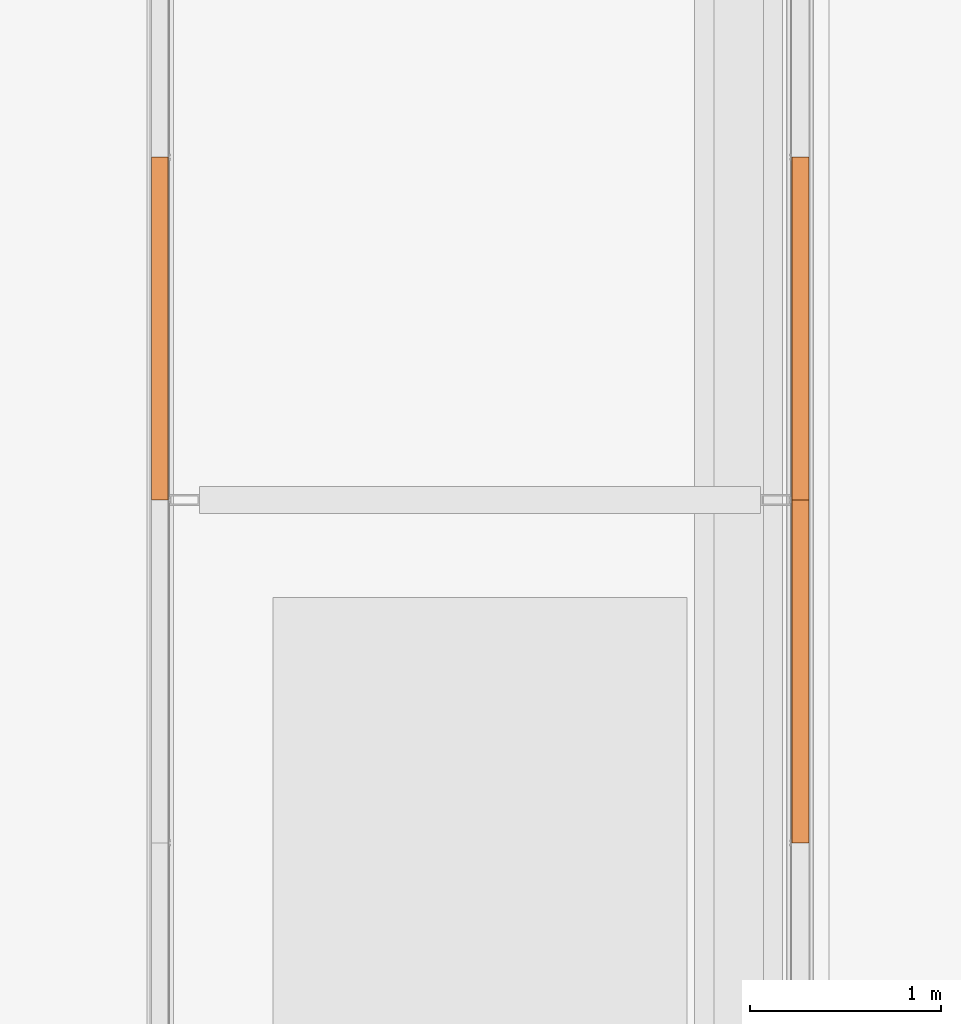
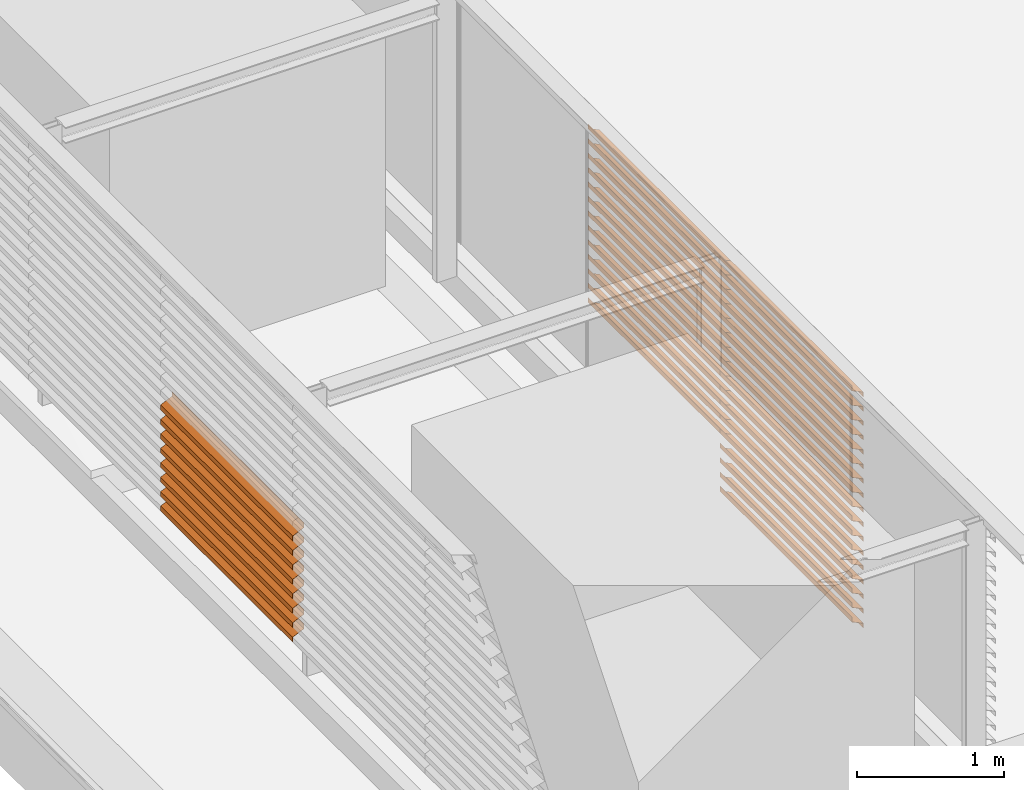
# One storey, part 24 of 32: 38 proxies.
"""IFC2X3 building model written with IfcOpenShell, lengths in millimetres."""

from ifc_helpers import new_model, entity, si_unit, converted_unit, derived_unit, direction, frame, origin, place, context, subcontext, project, spatial, polyline, outline, extrude, type_object, element, save


model = new_model("IFC2X3")

# Units and contexts
model_context = context("Model", 3, precision=0.01, world=origin(), true_north=direction((6.123031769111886e-17, 1.0)))
body_context = subcontext(model_context, "Body", "Model", "MODEL_VIEW")
ifc_project = project(units=[si_unit("LENGTHUNIT", "METRE", prefix="MILLI"), si_unit("AREAUNIT", "SQUARE_METRE"), si_unit("VOLUMEUNIT", "CUBIC_METRE"), converted_unit("PLANEANGLEUNIT", "DEGREE", entity("IfcRatioMeasure", 0.017453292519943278), si_unit("PLANEANGLEUNIT", "RADIAN"), dimensions=[0, 0, 0, 0, 0, 0, 0]), si_unit("MASSUNIT", "GRAM", prefix="KILO"), derived_unit("MASSDENSITYUNIT", [(si_unit("MASSUNIT", "GRAM", prefix="KILO"), 1), (si_unit("LENGTHUNIT", "METRE"), -3)]), derived_unit("IONCONCENTRATIONUNIT", [(si_unit("MASSUNIT", "GRAM", prefix="KILO"), 1), (si_unit("LENGTHUNIT", "METRE"), -3)]), derived_unit("MOMENTOFINERTIAUNIT", [(si_unit("LENGTHUNIT", "METRE"), 4)]), si_unit("TIMEUNIT", "SECOND"), si_unit("FREQUENCYUNIT", "HERTZ"), si_unit("THERMODYNAMICTEMPERATUREUNIT", "DEGREE_CELSIUS"), derived_unit("THERMALTRANSMITTANCEUNIT", [(si_unit("MASSUNIT", "GRAM", prefix="KILO"), 1), (si_unit("THERMODYNAMICTEMPERATUREUNIT", "KELVIN"), -1), (si_unit("TIMEUNIT", "SECOND"), -3)]), derived_unit("THERMALCONDUCTANCEUNIT", [(si_unit("MASSUNIT", "GRAM", prefix="KILO"), 1), (si_unit("THERMODYNAMICTEMPERATUREUNIT", "KELVIN"), -1), (si_unit("TIMEUNIT", "SECOND"), -3), (si_unit("LENGTHUNIT", "METRE"), 1)]), derived_unit("VOLUMETRICFLOWRATEUNIT", [(si_unit("LENGTHUNIT", "METRE"), 3), (si_unit("TIMEUNIT", "SECOND"), -1)]), derived_unit("MASSFLOWRATEUNIT", [(si_unit("MASSUNIT", "GRAM", prefix="KILO"), 1), (si_unit("TIMEUNIT", "SECOND"), -1)]), derived_unit("ROTATIONALFREQUENCYUNIT", [(si_unit("TIMEUNIT", "SECOND"), -1)]), si_unit("ELECTRICCURRENTUNIT", "AMPERE"), si_unit("ELECTRICVOLTAGEUNIT", "VOLT"), si_unit("POWERUNIT", "WATT"), si_unit("FORCEUNIT", "NEWTON", prefix="KILO"), si_unit("ILLUMINANCEUNIT", "LUX"), si_unit("LUMINOUSFLUXUNIT", "LUMEN"), si_unit("LUMINOUSINTENSITYUNIT", "CANDELA"), derived_unit("USERDEFINED", [(si_unit("MASSUNIT", "GRAM", prefix="KILO"), -1), (si_unit("LENGTHUNIT", "METRE"), -2), (si_unit("TIMEUNIT", "SECOND"), 3), (si_unit("LUMINOUSFLUXUNIT", "LUMEN"), 1)]), derived_unit("USERDEFINED", [(si_unit("MASSUNIT", "GRAM", prefix="KILO"), 1), (si_unit("TIMEUNIT", "SECOND"), -3), (si_unit("LENGTHUNIT", "METRE"), 3), (si_unit("ELECTRICCURRENTUNIT", "AMPERE"), -2)]), derived_unit("SOUNDPOWERUNIT", [(si_unit("MASSUNIT", "GRAM", prefix="KILO"), 1), (si_unit("TIMEUNIT", "SECOND"), -3), (si_unit("LENGTHUNIT", "METRE"), 2)]), derived_unit("SOUNDPRESSUREUNIT", [(si_unit("MASSUNIT", "GRAM", prefix="KILO"), 1), (si_unit("LENGTHUNIT", "METRE"), -1), (si_unit("TIMEUNIT", "SECOND"), -2)]), derived_unit("LINEARVELOCITYUNIT", [(si_unit("LENGTHUNIT", "METRE"), 1), (si_unit("TIMEUNIT", "SECOND"), -1)]), si_unit("PRESSUREUNIT", "PASCAL"), derived_unit("USERDEFINED", [(si_unit("MASSUNIT", "GRAM", prefix="KILO"), 1), (si_unit("LENGTHUNIT", "METRE"), -2), (si_unit("TIMEUNIT", "SECOND"), -2)]), derived_unit("LINEARFORCEUNIT", [(si_unit("MASSUNIT", "GRAM", prefix="KILO"), 1), (si_unit("TIMEUNIT", "SECOND"), -2)]), derived_unit("PLANARFORCEUNIT", [(si_unit("MASSUNIT", "GRAM", prefix="KILO"), 1), (si_unit("LENGTHUNIT", "METRE"), -1), (si_unit("TIMEUNIT", "SECOND"), -2)]), derived_unit("SPECIFICHEATCAPACITYUNIT", [(si_unit("THERMODYNAMICTEMPERATUREUNIT", "KELVIN"), -1), (si_unit("LENGTHUNIT", "METRE"), 2), (si_unit("TIMEUNIT", "SECOND"), -2)]), derived_unit("HEATINGVALUEUNIT", [(si_unit("LENGTHUNIT", "METRE"), 2), (si_unit("TIMEUNIT", "SECOND"), -2)]), derived_unit("VAPORPERMEABILITYUNIT", [(si_unit("LENGTHUNIT", "METRE"), -1), (si_unit("TIMEUNIT", "SECOND"), 1)]), derived_unit("DYNAMICVISCOSITYUNIT", [(si_unit("MASSUNIT", "GRAM", prefix="KILO"), 1), (si_unit("TIMEUNIT", "SECOND"), -1), (si_unit("LENGTHUNIT", "METRE"), -1)]), derived_unit("THERMALEXPANSIONCOEFFICIENTUNIT", [(si_unit("THERMODYNAMICTEMPERATUREUNIT", "KELVIN"), -1)]), derived_unit("MODULUSOFELASTICITYUNIT", [(si_unit("MASSUNIT", "GRAM", prefix="KILO"), 1), (si_unit("LENGTHUNIT", "METRE"), -1), (si_unit("TIMEUNIT", "SECOND"), -2)]), derived_unit("ISOTHERMALMOISTURECAPACITYUNIT", [(si_unit("LENGTHUNIT", "METRE"), 3), (si_unit("MASSUNIT", "GRAM", prefix="KILO"), -1)]), derived_unit("MOISTUREDIFFUSIVITYUNIT", [(si_unit("TIMEUNIT", "SECOND"), -1), (si_unit("LENGTHUNIT", "METRE"), 2)])], contexts=[model_context])

# Site, building, storey
site_placement = place(None, frame((0.0, 300.0, 0.0)))
site = spatial("IfcSite", under=ifc_project, at=site_placement, Name="<Kadastrale nummers>", CompositionType="ELEMENT")
building_placement = place(site_placement, origin())
building = spatial("IfcBuilding", under=site, at=building_placement, CompositionType="ELEMENT")
storey_placement = place(building_placement, frame((0.0, 0.0, 7150.000035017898)))
storey = spatial("IfcBuildingStorey", under=building, at=storey_placement, Name="02 tweede verdieping", CompositionType="ELEMENT", Elevation=7150.000035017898)

# Proxies
building_element_proxy_type_1 = type_object("IfcBuildingElementProxyType", Name="6286697", PredefinedType="NOTDEFINED")
proxy_1_placement = place(storey_placement, origin())
element("IfcBuildingElementProxy", 1, at=proxy_1_placement, inside=storey, type_object=building_element_proxy_type_1, Name="6286697", context=body_context, shape_type="SweptSolid", body=[
    extrude(outline(polyline([(20.10886047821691, -45.0), (60.108860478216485, -45.0), (58.75984344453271, -43.0), (21.383000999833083, -43.0), (-19.652072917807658, 45.0), (-59.89113952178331, 45.0), (-59.89113952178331, 43.0), (-20.92621343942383, 43.0), (20.10886047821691, -45.0)])), frame((41723.0, 33602.50000015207, 2480.108860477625), z_axis=(0.0, 1.0, 0.0), x_axis=(0.0, 0.0, -1.0)), (0.0, 0.0, 1.0), 1797.4999998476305),
])
building_element_proxy_type_2 = type_object("IfcBuildingElementProxyType", Name="6286698", PredefinedType="NOTDEFINED")
proxy_2_placement = place(storey_placement, origin())
element("IfcBuildingElementProxy", 2, at=proxy_2_placement, inside=storey, type_object=building_element_proxy_type_2, Name="6286698", context=body_context, shape_type="SweptSolid", body=[
    extrude(outline(polyline([(20.108860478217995, -45.0), (60.108860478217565, -45.0), (58.75984344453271, -43.0), (21.383000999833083, -43.0), (-19.652072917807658, 45.0), (-59.89113952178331, 45.0), (-59.89113952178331, 43.0), (-20.92621343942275, 43.0), (20.108860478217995, -45.0)])), frame((41723.0, 33602.50000015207, 2360.1088604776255), z_axis=(0.0, 1.0, 0.0), x_axis=(0.0, 0.0, -1.0)), (0.0, 0.0, 1.0), 1797.4999998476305),
])
building_element_proxy_type_3 = type_object("IfcBuildingElementProxyType", Name="6286699", PredefinedType="NOTDEFINED")
proxy_3_placement = place(storey_placement, origin())
element("IfcBuildingElementProxy", 3, at=proxy_3_placement, inside=storey, type_object=building_element_proxy_type_3, Name="6286699", context=body_context, shape_type="SweptSolid", body=[
    extrude(outline(polyline([(20.108860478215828, -45.0), (60.1088604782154, -45.0), (58.75984344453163, -43.0), (21.383000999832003, -43.0), (-19.65207291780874, 45.0), (-59.891139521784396, 45.0), (-59.891139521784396, 43.0), (-20.926213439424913, 43.0), (20.108860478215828, -45.0)])), frame((41723.0, 33602.50000015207, 2240.1088604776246), z_axis=(0.0, 1.0, 0.0), x_axis=(0.0, 0.0, -1.0)), (0.0, 0.0, 1.0), 1797.4999998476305),
])
building_element_proxy_type_4 = type_object("IfcBuildingElementProxyType", Name="6286700", PredefinedType="NOTDEFINED")
proxy_4_placement = place(storey_placement, origin())
element("IfcBuildingElementProxy", 4, at=proxy_4_placement, inside=storey, type_object=building_element_proxy_type_4, Name="6286700", context=body_context, shape_type="SweptSolid", body=[
    extrude(outline(polyline([(20.10886047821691, -45.0), (60.108860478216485, -45.0), (58.75984344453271, -43.0), (21.383000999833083, -43.0), (-19.652072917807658, 45.0), (-59.89113952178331, 45.0), (-59.89113952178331, 43.0), (-20.92621343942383, 43.0), (20.10886047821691, -45.0)])), frame((41723.0, 33602.50000015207, 2120.1088604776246), z_axis=(0.0, 1.0, 0.0), x_axis=(0.0, 0.0, -1.0)), (0.0, 0.0, 1.0), 1797.4999998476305),
])
building_element_proxy_type_5 = type_object("IfcBuildingElementProxyType", Name="6286701", PredefinedType="NOTDEFINED")
proxy_5_placement = place(storey_placement, origin())
element("IfcBuildingElementProxy", 5, at=proxy_5_placement, inside=storey, type_object=building_element_proxy_type_5, Name="6286701", context=body_context, shape_type="SweptSolid", body=[
    extrude(outline(polyline([(20.108860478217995, -45.0), (60.108860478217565, -45.0), (58.7598434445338, -43.0), (21.383000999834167, -43.0), (-19.652072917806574, 45.0), (-59.89113952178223, 45.0), (-59.89113952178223, 43.0), (-20.92621343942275, 43.0), (20.108860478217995, -45.0)])), frame((41723.0, 33602.50000015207, 2000.108860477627), z_axis=(0.0, 1.0, 0.0), x_axis=(0.0, 0.0, -1.0)), (0.0, 0.0, 1.0), 1797.4999998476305),
])
building_element_proxy_type_6 = type_object("IfcBuildingElementProxyType", Name="6286702", PredefinedType="NOTDEFINED")
proxy_6_placement = place(storey_placement, origin())
element("IfcBuildingElementProxy", 6, at=proxy_6_placement, inside=storey, type_object=building_element_proxy_type_6, Name="6286702", context=body_context, shape_type="SweptSolid", body=[
    extrude(outline(polyline([(20.10886047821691, -45.0), (60.108860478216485, -45.0), (58.75984344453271, -43.0), (21.383000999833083, -43.0), (-19.652072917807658, 45.0), (-59.89113952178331, 45.0), (-59.89113952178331, 43.0), (-20.92621343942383, 43.0), (20.10886047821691, -45.0)])), frame((41723.0, 33602.50000015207, 1880.108860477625), z_axis=(0.0, 1.0, 0.0), x_axis=(0.0, 0.0, -1.0)), (0.0, 0.0, 1.0), 1797.4999998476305),
])
building_element_proxy_type_7 = type_object("IfcBuildingElementProxyType", Name="6286703", PredefinedType="NOTDEFINED")
proxy_7_placement = place(storey_placement, origin())
element("IfcBuildingElementProxy", 7, at=proxy_7_placement, inside=storey, type_object=building_element_proxy_type_7, Name="6286703", context=body_context, shape_type="SweptSolid", body=[
    extrude(outline(polyline([(20.10886047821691, -45.0), (60.108860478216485, -45.0), (58.75984344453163, -43.0), (21.383000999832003, -43.0), (-19.65207291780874, 45.0), (-59.891139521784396, 45.0), (-59.891139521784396, 43.0), (-20.92621343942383, 43.0), (20.10886047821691, -45.0)])), frame((41723.0, 33602.50000015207, 1760.1088604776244), z_axis=(0.0, 1.0, 0.0), x_axis=(0.0, 0.0, -1.0)), (0.0, 0.0, 1.0), 1797.4999998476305),
])
building_element_proxy_type_8 = type_object("IfcBuildingElementProxyType", Name="6286704", PredefinedType="NOTDEFINED")
proxy_8_placement = place(storey_placement, origin())
element("IfcBuildingElementProxy", 8, at=proxy_8_placement, inside=storey, type_object=building_element_proxy_type_8, Name="6286704", context=body_context, shape_type="SweptSolid", body=[
    extrude(outline(polyline([(20.10886047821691, -45.0), (60.108860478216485, -45.0), (58.75984344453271, -43.0), (21.383000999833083, -43.0), (-19.652072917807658, 45.0), (-59.89113952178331, 45.0), (-59.89113952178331, 43.0), (-20.92621343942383, 43.0), (20.10886047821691, -45.0)])), frame((41723.0, 33602.50000015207, 1640.1088604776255), z_axis=(0.0, 1.0, 0.0), x_axis=(0.0, 0.0, -1.0)), (0.0, 0.0, 1.0), 1797.4999998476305),
])
building_element_proxy_type_9 = type_object("IfcBuildingElementProxyType", Name="6286705", PredefinedType="NOTDEFINED")
proxy_9_placement = place(storey_placement, origin())
element("IfcBuildingElementProxy", 9, at=proxy_9_placement, inside=storey, type_object=building_element_proxy_type_9, Name="6286705", context=body_context, shape_type="SweptSolid", body=[
    extrude(outline(polyline([(20.108860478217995, -45.0), (60.108860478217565, -45.0), (58.75984344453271, -43.0), (21.383000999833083, -43.0), (-19.652072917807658, 45.0), (-59.89113952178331, 45.0), (-59.89113952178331, 43.0), (-20.92621343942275, 43.0), (20.108860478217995, -45.0)])), frame((41723.0, 33602.50000015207, 1520.1088604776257), z_axis=(0.0, 1.0, 0.0), x_axis=(0.0, 0.0, -1.0)), (0.0, 0.0, 1.0), 1797.4999998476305),
])
building_element_proxy_type_10 = type_object("IfcBuildingElementProxyType", Name="6286706", PredefinedType="NOTDEFINED")
proxy_10_placement = place(storey_placement, origin())
element("IfcBuildingElementProxy", 10, at=proxy_10_placement, inside=storey, type_object=building_element_proxy_type_10, Name="6286706", context=body_context, shape_type="SweptSolid", body=[
    extrude(outline(polyline([(20.108860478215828, -45.0), (60.1088604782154, -45.0), (58.75984344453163, -43.0), (21.383000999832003, -43.0), (-19.65207291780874, 45.0), (-59.891139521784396, 45.0), (-59.891139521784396, 43.0), (-20.926213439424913, 43.0), (20.108860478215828, -45.0)])), frame((41723.0, 33602.50000015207, 1400.1088604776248), z_axis=(0.0, 1.0, 0.0), x_axis=(0.0, 0.0, -1.0)), (0.0, 0.0, 1.0), 1797.4999998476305),
])
building_element_proxy_type_11 = type_object("IfcBuildingElementProxyType", Name="6286707", PredefinedType="NOTDEFINED")
proxy_11_placement = place(storey_placement, origin())
element("IfcBuildingElementProxy", 11, at=proxy_11_placement, inside=storey, type_object=building_element_proxy_type_11, Name="6286707", context=body_context, shape_type="SweptSolid", body=[
    extrude(outline(polyline([(20.10886047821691, -45.0), (60.108860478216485, -45.0), (58.75984344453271, -43.0), (21.383000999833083, -43.0), (-19.652072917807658, 45.0), (-59.89113952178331, 45.0), (-59.89113952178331, 43.0), (-20.92621343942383, 43.0), (20.10886047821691, -45.0)])), frame((41723.0, 33602.50000015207, 1280.108860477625), z_axis=(0.0, 1.0, 0.0), x_axis=(0.0, 0.0, -1.0)), (0.0, 0.0, 1.0), 1797.4999998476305),
])
building_element_proxy_type_12 = type_object("IfcBuildingElementProxyType", Name="6286708", PredefinedType="NOTDEFINED")
proxy_12_placement = place(storey_placement, origin())
element("IfcBuildingElementProxy", 12, at=proxy_12_placement, inside=storey, type_object=building_element_proxy_type_12, Name="6286708", context=body_context, shape_type="SweptSolid", body=[
    extrude(outline(polyline([(20.108860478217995, -45.0), (60.108860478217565, -45.0), (58.75984344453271, -43.0), (21.383000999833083, -43.0), (-19.652072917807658, 45.0), (-59.89113952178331, 45.0), (-59.89113952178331, 43.0), (-20.92621343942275, 43.0), (20.108860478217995, -45.0)])), frame((41723.0, 33602.50000015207, 1160.1088604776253), z_axis=(0.0, 1.0, 0.0), x_axis=(0.0, 0.0, -1.0)), (0.0, 0.0, 1.0), 1797.4999998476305),
])
building_element_proxy_type_13 = type_object("IfcBuildingElementProxyType", Name="6286709", PredefinedType="NOTDEFINED")
proxy_13_placement = place(storey_placement, origin())
element("IfcBuildingElementProxy", 13, at=proxy_13_placement, inside=storey, type_object=building_element_proxy_type_13, Name="6286709", context=body_context, shape_type="SweptSolid", body=[
    extrude(outline(polyline([(20.10886047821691, -45.0), (60.108860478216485, -45.0), (58.75984344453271, -43.0), (21.383000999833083, -43.0), (-19.652072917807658, 45.0), (-59.89113952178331, 45.0), (-59.89113952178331, 43.0), (-20.92621343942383, 43.0), (20.10886047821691, -45.0)])), frame((41723.0, 33602.50000015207, 1040.1088604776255), z_axis=(0.0, 1.0, 0.0), x_axis=(0.0, 0.0, -1.0)), (0.0, 0.0, 1.0), 1797.4999998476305),
])
building_element_proxy_type_14 = type_object("IfcBuildingElementProxyType", Name="6286710", PredefinedType="NOTDEFINED")
proxy_14_placement = place(storey_placement, origin())
element("IfcBuildingElementProxy", 14, at=proxy_14_placement, inside=storey, type_object=building_element_proxy_type_14, Name="6286710", context=body_context, shape_type="SweptSolid", body=[
    extrude(outline(polyline([(20.10886047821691, -45.0), (60.108860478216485, -45.0), (58.75984344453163, -43.0), (21.383000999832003, -43.0), (-19.65207291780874, 45.0), (-59.891139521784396, 45.0), (-59.891139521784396, 43.0), (-20.92621343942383, 43.0), (20.10886047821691, -45.0)])), frame((41723.0, 33602.50000015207, 920.1088604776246), z_axis=(0.0, 1.0, 0.0), x_axis=(0.0, 0.0, -1.0)), (0.0, 0.0, 1.0), 1797.4999998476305),
])
building_element_proxy_type_15 = type_object("IfcBuildingElementProxyType", Name="6286711", PredefinedType="NOTDEFINED")
proxy_15_placement = place(storey_placement, origin())
element("IfcBuildingElementProxy", 15, at=proxy_15_placement, inside=storey, type_object=building_element_proxy_type_15, Name="6286711", context=body_context, shape_type="SweptSolid", body=[
    extrude(outline(polyline([(20.10886047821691, -45.0), (60.108860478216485, -45.0), (58.75984344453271, -43.0), (21.383000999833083, -43.0), (-19.652072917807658, 45.0), (-59.89113952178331, 45.0), (-59.89113952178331, 43.0), (-20.92621343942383, 43.0), (20.10886047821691, -45.0)])), frame((41723.0, 33602.50000015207, 800.108860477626), z_axis=(0.0, 1.0, 0.0), x_axis=(0.0, 0.0, -1.0)), (0.0, 0.0, 1.0), 1797.4999998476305),
])
building_element_proxy_type_16 = type_object("IfcBuildingElementProxyType", Name="6286712", PredefinedType="NOTDEFINED")
proxy_16_placement = place(storey_placement, origin())
element("IfcBuildingElementProxy", 16, at=proxy_16_placement, inside=storey, type_object=building_element_proxy_type_16, Name="6286712", context=body_context, shape_type="SweptSolid", body=[
    extrude(outline(polyline([(20.108860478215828, -45.0), (60.1088604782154, -45.0), (58.75984344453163, -43.0), (21.383000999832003, -43.0), (-19.65207291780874, 45.0), (-59.891139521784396, 45.0), (-59.891139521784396, 43.0), (-20.926213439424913, 43.0), (20.108860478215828, -45.0)])), frame((41723.0, 33602.50000015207, 680.1088604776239), z_axis=(0.0, 1.0, 0.0), x_axis=(0.0, 0.0, -1.0)), (0.0, 0.0, 1.0), 1797.4999998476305),
])
building_element_proxy_type_17 = type_object("IfcBuildingElementProxyType", Name="6286713", PredefinedType="NOTDEFINED")
proxy_17_placement = place(storey_placement, origin())
element("IfcBuildingElementProxy", 17, at=proxy_17_placement, inside=storey, type_object=building_element_proxy_type_17, Name="6286713", context=body_context, shape_type="SweptSolid", body=[
    extrude(outline(polyline([(20.10886047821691, -45.0), (60.108860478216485, -45.0), (58.75984344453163, -43.0), (21.383000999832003, -43.0), (-19.65207291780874, 45.0), (-59.891139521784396, 45.0), (-59.891139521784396, 43.0), (-20.92621343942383, 43.0), (20.10886047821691, -45.0)])), frame((41723.0, 33602.50000015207, 560.1088604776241), z_axis=(0.0, 1.0, 0.0), x_axis=(0.0, 0.0, -1.0)), (0.0, 0.0, 1.0), 1797.4999998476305),
])
building_element_proxy_type_18 = type_object("IfcBuildingElementProxyType", Name="6286799", PredefinedType="NOTDEFINED")
proxy_18_placement = place(storey_placement, origin())
element("IfcBuildingElementProxy", 18, at=proxy_18_placement, inside=storey, type_object=building_element_proxy_type_18, Name="6286799", context=body_context, shape_type="SweptSolid", body=[
    extrude(outline(polyline([(20.10886047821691, -45.0), (60.108860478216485, -45.0), (58.75984344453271, -43.0), (21.383000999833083, -43.0), (-19.652072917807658, 45.0), (-59.89113952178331, 45.0), (-59.89113952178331, 43.0), (-20.92621343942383, 43.0), (20.10886047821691, -45.0)])), frame((41723.0, 35400.0, 2480.108860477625), z_axis=(0.0, 1.0, 0.0), x_axis=(0.0, 0.0, -1.0)), (0.0, 0.0, 1.0), 1797.4999998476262),
])
building_element_proxy_type_19 = type_object("IfcBuildingElementProxyType", Name="6286800", PredefinedType="NOTDEFINED")
proxy_19_placement = place(storey_placement, origin())
element("IfcBuildingElementProxy", 19, at=proxy_19_placement, inside=storey, type_object=building_element_proxy_type_19, Name="6286800", context=body_context, shape_type="SweptSolid", body=[
    extrude(outline(polyline([(20.108860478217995, -45.0), (60.108860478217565, -45.0), (58.75984344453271, -43.0), (21.383000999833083, -43.0), (-19.652072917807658, 45.0), (-59.89113952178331, 45.0), (-59.89113952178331, 43.0), (-20.92621343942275, 43.0), (20.108860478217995, -45.0)])), frame((41723.0, 35400.0, 2360.1088604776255), z_axis=(0.0, 1.0, 0.0), x_axis=(0.0, 0.0, -1.0)), (0.0, 0.0, 1.0), 1797.4999998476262),
])
building_element_proxy_type_20 = type_object("IfcBuildingElementProxyType", Name="6286801", PredefinedType="NOTDEFINED")
proxy_20_placement = place(storey_placement, origin())
element("IfcBuildingElementProxy", 20, at=proxy_20_placement, inside=storey, type_object=building_element_proxy_type_20, Name="6286801", context=body_context, shape_type="SweptSolid", body=[
    extrude(outline(polyline([(20.108860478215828, -45.0), (60.1088604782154, -45.0), (58.75984344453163, -43.0), (21.383000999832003, -43.0), (-19.65207291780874, 45.0), (-59.891139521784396, 45.0), (-59.891139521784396, 43.0), (-20.926213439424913, 43.0), (20.108860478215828, -45.0)])), frame((41723.0, 35400.0, 2240.1088604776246), z_axis=(0.0, 1.0, 0.0), x_axis=(0.0, 0.0, -1.0)), (0.0, 0.0, 1.0), 1797.4999998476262),
])
building_element_proxy_type_21 = type_object("IfcBuildingElementProxyType", Name="6286802", PredefinedType="NOTDEFINED")
proxy_21_placement = place(storey_placement, origin())
element("IfcBuildingElementProxy", 21, at=proxy_21_placement, inside=storey, type_object=building_element_proxy_type_21, Name="6286802", context=body_context, shape_type="SweptSolid", body=[
    extrude(outline(polyline([(20.10886047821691, -45.0), (60.108860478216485, -45.0), (58.75984344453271, -43.0), (21.383000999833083, -43.0), (-19.652072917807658, 45.0), (-59.89113952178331, 45.0), (-59.89113952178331, 43.0), (-20.92621343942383, 43.0), (20.10886047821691, -45.0)])), frame((41723.0, 35400.0, 2120.1088604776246), z_axis=(0.0, 1.0, 0.0), x_axis=(0.0, 0.0, -1.0)), (0.0, 0.0, 1.0), 1797.4999998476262),
])
building_element_proxy_type_22 = type_object("IfcBuildingElementProxyType", Name="6286803", PredefinedType="NOTDEFINED")
proxy_22_placement = place(storey_placement, origin())
element("IfcBuildingElementProxy", 22, at=proxy_22_placement, inside=storey, type_object=building_element_proxy_type_22, Name="6286803", context=body_context, shape_type="SweptSolid", body=[
    extrude(outline(polyline([(20.108860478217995, -45.0), (60.108860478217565, -45.0), (58.7598434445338, -43.0), (21.383000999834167, -43.0), (-19.652072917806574, 45.0), (-59.89113952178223, 45.0), (-59.89113952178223, 43.0), (-20.92621343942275, 43.0), (20.108860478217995, -45.0)])), frame((41723.0, 35400.0, 2000.108860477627), z_axis=(0.0, 1.0, 0.0), x_axis=(0.0, 0.0, -1.0)), (0.0, 0.0, 1.0), 1797.4999998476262),
])
building_element_proxy_type_23 = type_object("IfcBuildingElementProxyType", Name="6286804", PredefinedType="NOTDEFINED")
proxy_23_placement = place(storey_placement, origin())
element("IfcBuildingElementProxy", 23, at=proxy_23_placement, inside=storey, type_object=building_element_proxy_type_23, Name="6286804", context=body_context, shape_type="SweptSolid", body=[
    extrude(outline(polyline([(20.10886047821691, -45.0), (60.108860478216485, -45.0), (58.75984344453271, -43.0), (21.383000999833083, -43.0), (-19.652072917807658, 45.0), (-59.89113952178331, 45.0), (-59.89113952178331, 43.0), (-20.92621343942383, 43.0), (20.10886047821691, -45.0)])), frame((41723.0, 35400.0, 1880.108860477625), z_axis=(0.0, 1.0, 0.0), x_axis=(0.0, 0.0, -1.0)), (0.0, 0.0, 1.0), 1797.4999998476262),
])
building_element_proxy_type_24 = type_object("IfcBuildingElementProxyType", Name="6286805", PredefinedType="NOTDEFINED")
proxy_24_placement = place(storey_placement, origin())
element("IfcBuildingElementProxy", 24, at=proxy_24_placement, inside=storey, type_object=building_element_proxy_type_24, Name="6286805", context=body_context, shape_type="SweptSolid", body=[
    extrude(outline(polyline([(20.10886047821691, -45.0), (60.108860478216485, -45.0), (58.75984344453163, -43.0), (21.383000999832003, -43.0), (-19.65207291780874, 45.0), (-59.891139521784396, 45.0), (-59.891139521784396, 43.0), (-20.92621343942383, 43.0), (20.10886047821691, -45.0)])), frame((41723.0, 35400.0, 1760.1088604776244), z_axis=(0.0, 1.0, 0.0), x_axis=(0.0, 0.0, -1.0)), (0.0, 0.0, 1.0), 1797.4999998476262),
])
building_element_proxy_type_25 = type_object("IfcBuildingElementProxyType", Name="6286806", PredefinedType="NOTDEFINED")
proxy_25_placement = place(storey_placement, origin())
element("IfcBuildingElementProxy", 25, at=proxy_25_placement, inside=storey, type_object=building_element_proxy_type_25, Name="6286806", context=body_context, shape_type="SweptSolid", body=[
    extrude(outline(polyline([(20.10886047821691, -45.0), (60.108860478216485, -45.0), (58.75984344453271, -43.0), (21.383000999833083, -43.0), (-19.652072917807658, 45.0), (-59.89113952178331, 45.0), (-59.89113952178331, 43.0), (-20.92621343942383, 43.0), (20.10886047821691, -45.0)])), frame((41723.0, 35400.0, 1640.1088604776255), z_axis=(0.0, 1.0, 0.0), x_axis=(0.0, 0.0, -1.0)), (0.0, 0.0, 1.0), 1797.4999998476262),
])
building_element_proxy_type_26 = type_object("IfcBuildingElementProxyType", Name="6286807", PredefinedType="NOTDEFINED")
proxy_26_placement = place(storey_placement, origin())
element("IfcBuildingElementProxy", 26, at=proxy_26_placement, inside=storey, type_object=building_element_proxy_type_26, Name="6286807", context=body_context, shape_type="SweptSolid", body=[
    extrude(outline(polyline([(20.108860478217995, -45.0), (60.108860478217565, -45.0), (58.75984344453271, -43.0), (21.383000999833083, -43.0), (-19.652072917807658, 45.0), (-59.89113952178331, 45.0), (-59.89113952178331, 43.0), (-20.92621343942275, 43.0), (20.108860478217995, -45.0)])), frame((41723.0, 35400.0, 1520.1088604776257), z_axis=(0.0, 1.0, 0.0), x_axis=(0.0, 0.0, -1.0)), (0.0, 0.0, 1.0), 1797.4999998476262),
])
building_element_proxy_type_27 = type_object("IfcBuildingElementProxyType", Name="6286808", PredefinedType="NOTDEFINED")
proxy_27_placement = place(storey_placement, origin())
element("IfcBuildingElementProxy", 27, at=proxy_27_placement, inside=storey, type_object=building_element_proxy_type_27, Name="6286808", context=body_context, shape_type="SweptSolid", body=[
    extrude(outline(polyline([(20.108860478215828, -45.0), (60.1088604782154, -45.0), (58.75984344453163, -43.0), (21.383000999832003, -43.0), (-19.65207291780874, 45.0), (-59.891139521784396, 45.0), (-59.891139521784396, 43.0), (-20.926213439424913, 43.0), (20.108860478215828, -45.0)])), frame((41723.0, 35400.0, 1400.1088604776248), z_axis=(0.0, 1.0, 0.0), x_axis=(0.0, 0.0, -1.0)), (0.0, 0.0, 1.0), 1797.4999998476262),
])
building_element_proxy_type_28 = type_object("IfcBuildingElementProxyType", Name="6286809", PredefinedType="NOTDEFINED")
proxy_28_placement = place(storey_placement, origin())
element("IfcBuildingElementProxy", 28, at=proxy_28_placement, inside=storey, type_object=building_element_proxy_type_28, Name="6286809", context=body_context, shape_type="SweptSolid", body=[
    extrude(outline(polyline([(20.10886047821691, -45.0), (60.108860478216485, -45.0), (58.75984344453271, -43.0), (21.383000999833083, -43.0), (-19.652072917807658, 45.0), (-59.89113952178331, 45.0), (-59.89113952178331, 43.0), (-20.92621343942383, 43.0), (20.10886047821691, -45.0)])), frame((41723.0, 35400.0, 1280.108860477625), z_axis=(0.0, 1.0, 0.0), x_axis=(0.0, 0.0, -1.0)), (0.0, 0.0, 1.0), 1797.4999998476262),
])
building_element_proxy_type_29 = type_object("IfcBuildingElementProxyType", Name="6286810", PredefinedType="NOTDEFINED")
proxy_29_placement = place(storey_placement, origin())
element("IfcBuildingElementProxy", 29, at=proxy_29_placement, inside=storey, type_object=building_element_proxy_type_29, Name="6286810", context=body_context, shape_type="SweptSolid", body=[
    extrude(outline(polyline([(20.108860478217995, -45.0), (60.108860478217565, -45.0), (58.75984344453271, -43.0), (21.383000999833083, -43.0), (-19.652072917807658, 45.0), (-59.89113952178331, 45.0), (-59.89113952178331, 43.0), (-20.92621343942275, 43.0), (20.108860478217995, -45.0)])), frame((41723.0, 35400.0, 1160.1088604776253), z_axis=(0.0, 1.0, 0.0), x_axis=(0.0, 0.0, -1.0)), (0.0, 0.0, 1.0), 1797.4999998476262),
])
building_element_proxy_type_30 = type_object("IfcBuildingElementProxyType", Name="6286811", PredefinedType="NOTDEFINED")
proxy_30_placement = place(storey_placement, origin())
element("IfcBuildingElementProxy", 30, at=proxy_30_placement, inside=storey, type_object=building_element_proxy_type_30, Name="6286811", context=body_context, shape_type="SweptSolid", body=[
    extrude(outline(polyline([(20.10886047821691, -45.0), (60.108860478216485, -45.0), (58.75984344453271, -43.0), (21.383000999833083, -43.0), (-19.652072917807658, 45.0), (-59.89113952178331, 45.0), (-59.89113952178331, 43.0), (-20.92621343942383, 43.0), (20.10886047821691, -45.0)])), frame((41723.0, 35400.0, 1040.1088604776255), z_axis=(0.0, 1.0, 0.0), x_axis=(0.0, 0.0, -1.0)), (0.0, 0.0, 1.0), 1797.4999998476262),
])
building_element_proxy_type_31 = type_object("IfcBuildingElementProxyType", Name="6287499", PredefinedType="NOTDEFINED")
proxy_31_placement = place(storey_placement, origin())
element("IfcBuildingElementProxy", 31, at=proxy_31_placement, inside=storey, type_object=building_element_proxy_type_31, Name="6287499", context=body_context, shape_type="SweptSolid", body=[
    extrude(outline(polyline([(-49.282222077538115, 0.7930049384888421), (-66.18695254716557, -35.459306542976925), (-63.804217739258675, -35.08191842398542), (-48.008081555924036, -1.2069950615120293), (49.08917531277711, -1.2069950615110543), (66.0949396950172, 35.26198434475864), (64.28232412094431, 36.10722086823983), (47.81503479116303, 0.7930049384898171), (-49.282222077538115, 0.7930049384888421)])), frame((38367.0, 35400.0, 1400.108860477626), z_axis=(0.0, -1.0, 0.0), x_axis=(0.9063077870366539, 0.0, 0.4226182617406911)), (0.0, 0.0, -1.0), 1797.4999998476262),
])
building_element_proxy_type_32 = type_object("IfcBuildingElementProxyType", Name="6287500", PredefinedType="NOTDEFINED")
proxy_32_placement = place(storey_placement, origin())
element("IfcBuildingElementProxy", 32, at=proxy_32_placement, inside=storey, type_object=building_element_proxy_type_32, Name="6287500", context=body_context, shape_type="SweptSolid", body=[
    extrude(outline(polyline([(-49.28222207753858, 0.7930049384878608), (-66.18695254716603, -35.459306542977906), (-63.80421773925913, -35.08191842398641), (-48.00808155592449, -1.2069950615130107), (49.08917531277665, -1.2069950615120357), (66.09493969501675, 35.26198434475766), (64.28232412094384, 36.10722086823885), (47.815034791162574, 0.7930049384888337), (-49.28222207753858, 0.7930049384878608)])), frame((38367.0, 35400.0, 1280.1088604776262), z_axis=(0.0, -1.0, 0.0), x_axis=(0.9063077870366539, 0.0, 0.4226182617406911)), (0.0, 0.0, -1.0), 1797.4999998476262),
])
building_element_proxy_type_33 = type_object("IfcBuildingElementProxyType", Name="6287501", PredefinedType="NOTDEFINED")
proxy_33_placement = place(storey_placement, origin())
element("IfcBuildingElementProxy", 33, at=proxy_33_placement, inside=storey, type_object=building_element_proxy_type_33, Name="6287501", context=body_context, shape_type="SweptSolid", body=[
    extrude(outline(polyline([(-49.28222207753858, 0.7930049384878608), (-66.18695254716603, -35.459306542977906), (-63.804217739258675, -35.08191842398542), (-48.008081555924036, -1.2069950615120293), (49.08917531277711, -1.2069950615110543), (66.0949396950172, 35.26198434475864), (64.28232412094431, 36.10722086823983), (47.815034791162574, 0.7930049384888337), (-49.28222207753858, 0.7930049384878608)])), frame((38367.0, 35400.0, 1160.1088604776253), z_axis=(0.0, -1.0, 0.0), x_axis=(0.9063077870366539, 0.0, 0.4226182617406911)), (0.0, 0.0, -1.0), 1797.4999998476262),
])
building_element_proxy_type_34 = type_object("IfcBuildingElementProxyType", Name="6287502", PredefinedType="NOTDEFINED")
proxy_34_placement = place(storey_placement, origin())
element("IfcBuildingElementProxy", 34, at=proxy_34_placement, inside=storey, type_object=building_element_proxy_type_34, Name="6287502", context=body_context, shape_type="SweptSolid", body=[
    extrude(outline(polyline([(-49.282222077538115, 0.7930049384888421), (-66.18695254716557, -35.459306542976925), (-63.804217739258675, -35.08191842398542), (-48.008081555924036, -1.2069950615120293), (49.08917531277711, -1.2069950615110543), (66.0949396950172, 35.26198434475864), (64.28232412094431, 36.10722086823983), (47.81503479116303, 0.7930049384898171), (-49.282222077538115, 0.7930049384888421)])), frame((38367.0, 35400.0, 1040.1088604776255), z_axis=(0.0, -1.0, 0.0), x_axis=(0.9063077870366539, 0.0, 0.4226182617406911)), (0.0, 0.0, -1.0), 1797.4999998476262),
])
building_element_proxy_type_35 = type_object("IfcBuildingElementProxyType", Name="6287503", PredefinedType="NOTDEFINED")
proxy_35_placement = place(storey_placement, origin())
element("IfcBuildingElementProxy", 35, at=proxy_35_placement, inside=storey, type_object=building_element_proxy_type_35, Name="6287503", context=body_context, shape_type="SweptSolid", body=[
    extrude(outline(polyline([(-49.282222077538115, 0.7930049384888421), (-66.18695254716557, -35.459306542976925), (-63.80421773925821, -35.08191842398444), (-48.00808155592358, -1.206995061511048), (49.08917531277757, -1.2069950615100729), (66.09493969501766, 35.26198434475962), (64.28232412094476, 36.107220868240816), (47.81503479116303, 0.7930049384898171), (-49.282222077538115, 0.7930049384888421)])), frame((38367.0, 35400.0, 920.1088604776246), z_axis=(0.0, -1.0, 0.0), x_axis=(0.9063077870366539, 0.0, 0.4226182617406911)), (0.0, 0.0, -1.0), 1797.4999998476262),
])
building_element_proxy_type_36 = type_object("IfcBuildingElementProxyType", Name="6287504", PredefinedType="NOTDEFINED")
proxy_36_placement = place(storey_placement, origin())
element("IfcBuildingElementProxy", 36, at=proxy_36_placement, inside=storey, type_object=building_element_proxy_type_36, Name="6287504", context=body_context, shape_type="SweptSolid", body=[
    extrude(outline(polyline([(-49.28222207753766, 0.7930049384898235), (-66.18695254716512, -35.459306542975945), (-63.80421773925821, -35.08191842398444), (-48.00808155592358, -1.206995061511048), (49.08917531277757, -1.2069950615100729), (66.09493969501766, 35.26198434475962), (64.28232412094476, 36.107220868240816), (47.815034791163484, 0.7930049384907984), (-49.28222207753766, 0.7930049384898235)])), frame((38367.0, 35400.0, 800.1088604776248), z_axis=(0.0, -1.0, 0.0), x_axis=(0.9063077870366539, 0.0, 0.4226182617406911)), (0.0, 0.0, -1.0), 1797.4999998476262),
])
building_element_proxy_type_37 = type_object("IfcBuildingElementProxyType", Name="6287505", PredefinedType="NOTDEFINED")
proxy_37_placement = place(storey_placement, origin())
element("IfcBuildingElementProxy", 37, at=proxy_37_placement, inside=storey, type_object=building_element_proxy_type_37, Name="6287505", context=body_context, shape_type="SweptSolid", body=[
    extrude(outline(polyline([(-49.282222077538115, 0.7930049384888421), (-66.18695254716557, -35.459306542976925), (-63.804217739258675, -35.08191842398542), (-48.008081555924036, -1.2069950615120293), (49.08917531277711, -1.2069950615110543), (66.0949396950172, 35.26198434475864), (64.28232412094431, 36.10722086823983), (47.81503479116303, 0.7930049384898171), (-49.282222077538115, 0.7930049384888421)])), frame((38367.0, 35400.0, 680.1088604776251), z_axis=(0.0, -1.0, 0.0), x_axis=(0.9063077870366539, 0.0, 0.4226182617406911)), (0.0, 0.0, -1.0), 1797.4999998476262),
])
building_element_proxy_type_38 = type_object("IfcBuildingElementProxyType", Name="6287506", PredefinedType="NOTDEFINED")
proxy_38_placement = place(storey_placement, origin())
element("IfcBuildingElementProxy", 38, at=proxy_38_placement, inside=storey, type_object=building_element_proxy_type_38, Name="6287506", context=body_context, shape_type="SweptSolid", body=[
    extrude(outline(polyline([(-49.28222207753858, 0.7930049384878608), (-66.18695254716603, -35.459306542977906), (-63.804217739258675, -35.08191842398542), (-48.008081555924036, -1.2069950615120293), (49.08917531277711, -1.2069950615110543), (66.0949396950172, 35.26198434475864), (64.28232412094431, 36.10722086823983), (47.815034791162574, 0.7930049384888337), (-49.28222207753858, 0.7930049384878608)])), frame((38367.0, 35400.0, 560.1088604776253), z_axis=(0.0, -1.0, 0.0), x_axis=(0.9063077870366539, 0.0, 0.4226182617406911)), (0.0, 0.0, -1.0), 1797.4999998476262),
])

save(model, "model.ifc")
